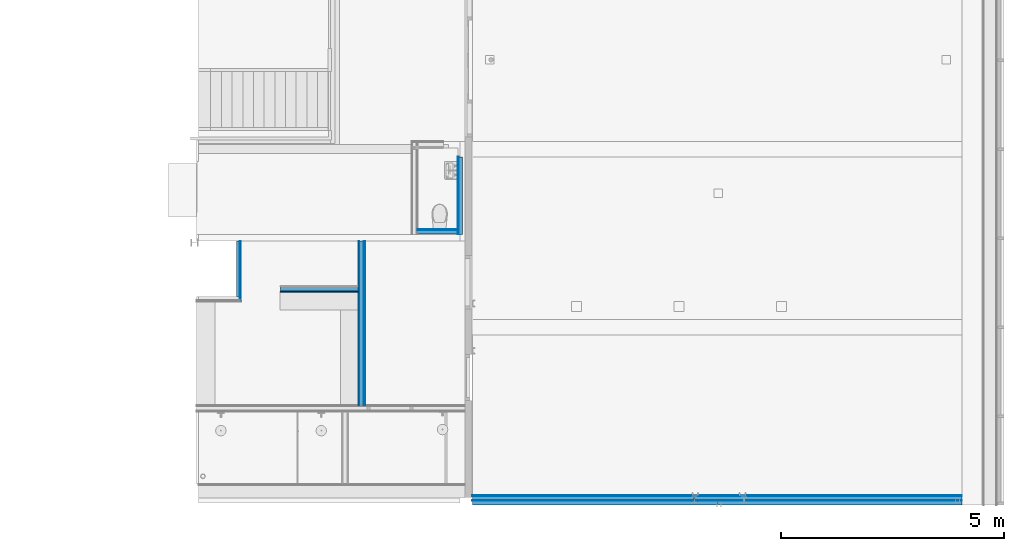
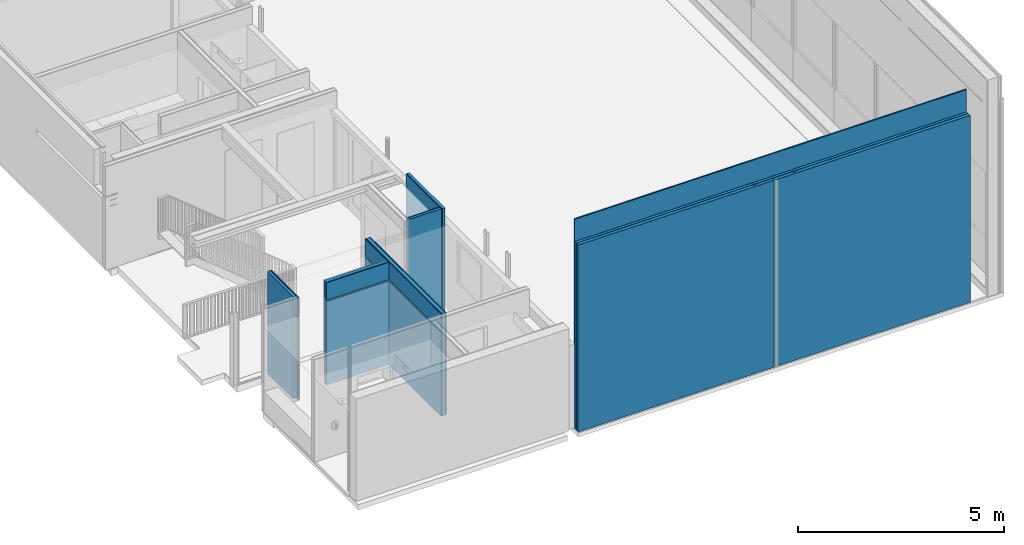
# One storey, part 10 of 35: 23 building element parts, 6 elements without a shape of their own.
"""IFC2X3 building model written with IfcOpenShell, lengths in millimetres."""

import ifcopenshell
import ifcopenshell.guid

model = None  # the IFC model being written
_history = None  # IfcOwnerHistory: only IFC2X3 demands one
_inside = {}  # id of a spatial element -> (the spatial element, [elements in it])
_under = {}  # id of a project, library or spatial element -> (it, [spatial elements below it])
_declared = {}  # id of a project -> (the project, [libraries it declares])
_typed = {}  # id of a type object -> (the type object, [elements of that type])
_made_of = {}  # id of a material, layer set ... -> (it, [elements and type objects made of it])


def new_model(schema):
    """Start an empty IFC model of exactly this schema.

    Asked for "IFC4X3", IfcOpenShell would pick the latest addendum, in which some entities
    have other attributes; the version numbers below select the first issue.
    IFC2X3 requires an IfcOwnerHistory on every rooted entity: one is made here for all.
    """
    global model, _history
    if schema == "IFC4X3":
        model = ifcopenshell.file(schema_version=(4, 3, 0, 0))
    else:
        model = ifcopenshell.file(schema=schema)
    _inside.clear()
    _under.clear()
    _declared.clear()
    _typed.clear()
    _made_of.clear()
    _history = None
    if model.schema == "IFC2X3":
        org = make("IfcOrganization", Name="unknown")
        user = make(
            "IfcPersonAndOrganization",
            ThePerson=make("IfcPerson", FamilyName="unknown"),
            TheOrganization=org,
        )
        app = make(
            "IfcApplication",
            ApplicationDeveloper=org,
            Version="unknown",
            ApplicationFullName="unknown",
            ApplicationIdentifier="unknown",
        )
        _history = make(
            "IfcOwnerHistory",
            OwningUser=user,
            OwningApplication=app,
            ChangeAction="ADDED",
            CreationDate=0,
        )
    return model


def make(cls, **values):
    """One entity of the class cls with the attributes given. An attribute that is None is left unset."""
    return model.create_entity(
        cls, **{name: value for name, value in values.items() if value is not None}
    )


def entity(cls, *values):
    """Any entity or typed value of the class cls, its attributes in the order of the schema. None: left unset."""
    e = model.create_entity(cls)
    for i, value in enumerate(values):
        if value is not None:
            e[i] = value
    return e


def rooted(cls, **values):
    """An entity with a GlobalId (a new one), such as an element, a storey or a relation."""
    return make(cls, GlobalId=ifcopenshell.guid.new(), OwnerHistory=_history, **values)


def si_unit(unit_type, name, prefix=None):
    """IfcSIUnit, for example si_unit("LENGTHUNIT", "METRE", prefix="MILLI")."""
    return make("IfcSIUnit", UnitType=unit_type, Prefix=prefix, Name=name)


def converted_unit(unit_type, name, factor, base, dimensions=None, offset=None):
    """IfcConversionBasedUnit, such as the inch: factor (a typed value) times the base unit."""
    return make(
        "IfcConversionBasedUnit"
        if offset is None
        else "IfcConversionBasedUnitWithOffset",
        ConversionOffset=offset,
        Dimensions=None
        if dimensions is None
        else entity("IfcDimensionalExponents", *dimensions),
        UnitType=unit_type,
        Name=name,
        ConversionFactor=make(
            "IfcMeasureWithUnit", ValueComponent=factor, UnitComponent=base
        ),
    )


def derived_unit(unit_type, elements):
    """IfcDerivedUnit: a product of units, each with its exponent."""
    return make(
        "IfcDerivedUnit",
        Elements=[
            make("IfcDerivedUnitElement", Unit=unit, Exponent=power)
            for unit, power in elements
        ],
        UnitType=unit_type,
    )


def money_unit(currency):
    """IfcMonetaryUnit."""
    return make("IfcMonetaryUnit", Currency=currency)


def assignment(units):
    """IfcUnitAssignment: the units of a project."""
    return None if units is None else make("IfcUnitAssignment", Units=units)


def point(xyz):
    """IfcCartesianPoint."""
    return None if xyz is None else make("IfcCartesianPoint", Coordinates=xyz)


def direction(xyz):
    """IfcDirection."""
    return None if xyz is None else make("IfcDirection", DirectionRatios=xyz)


def frame(location, z_axis=None, x_axis=None):
    """IfcAxis2Placement3D, a coordinate frame: its origin and axes. An axis left out is left unset."""
    return make(
        "IfcAxis2Placement3D",
        Location=point(location),
        Axis=direction(z_axis),
        RefDirection=direction(x_axis),
    )


def origin_with_axes():
    """The frame at (0, 0, 0) with the z axis (0, 0, 1) and the x axis (1, 0, 0) written out."""
    return frame((0.0, 0.0, 0.0), z_axis=(0.0, 0.0, 1.0), x_axis=(1.0, 0.0, 0.0))


def place(relative_to, where):
    """IfcLocalPlacement: puts the frame where relative to a parent placement (None: the world)."""
    return make(
        "IfcLocalPlacement", PlacementRelTo=relative_to, RelativePlacement=where
    )


def context(
    kind, dimensions, precision=None, world=None, true_north=None, identifier=None
):
    """IfcGeometricRepresentationContext, for example the 3D "Model" context."""
    return make(
        "IfcGeometricRepresentationContext",
        ContextIdentifier=identifier,
        ContextType=kind,
        CoordinateSpaceDimension=dimensions,
        Precision=precision,
        WorldCoordinateSystem=world,
        TrueNorth=true_north,
    )


def subcontext(parent, identifier, kind, view, scale=None):
    """IfcGeometricRepresentationSubContext, for example "Body" below "Model"."""
    return make(
        "IfcGeometricRepresentationSubContext",
        ContextIdentifier=identifier,
        ContextType=kind,
        ParentContext=parent,
        TargetScale=scale,
        TargetView=view,
    )


def project(units=None, contexts=None):
    """IfcProject with its units and contexts."""
    return rooted(
        "IfcProject",
        Name="project",
        RepresentationContexts=contexts,
        UnitsInContext=assignment(units),
    )


def spatial(cls, under=None, at=None, **own):
    """A site, building, storey or space (cls), placed at a placement, below another one or the project."""
    s = rooted(cls, ObjectPlacement=at, **own)
    if under is not None:
        _under.setdefault(under.id(), (under, []))[1].append(s)
    return s


def faces_of(points, faces, orient=None, outer=None):
    """IfcFace entities. A face is a list of loops; a loop is a list of indices into points, from 0.

    orient and outer hold one flag for each loop. By default every Orientation is true, the
    first loop of a face is its IfcFaceOuterBound and the others are IfcFaceBound.
    """
    made = []
    for i, loops in enumerate(faces):
        bounds = []
        for j, loop in enumerate(loops):
            is_outer = j == 0 if outer is None else outer[i][j]
            bounds.append(
                make(
                    "IfcFaceOuterBound" if is_outer else "IfcFaceBound",
                    Bound=make("IfcPolyLoop", Polygon=[points[k] for k in loop]),
                    Orientation=True if orient is None else orient[i][j],
                )
            )
        made.append(make("IfcFace", Bounds=bounds))
    return made


def faceted_brep(points, faces, orient=None, outer=None, voids=None):
    """IfcFacetedBrep: a solid bounded by flat faces; with voids (closed shells), ...WithVoids."""
    shared = [point(p) for p in points]
    hull = make("IfcClosedShell", CfsFaces=faces_of(shared, faces, orient, outer))
    if voids is None:
        return make("IfcFacetedBrep", Outer=hull)
    return make(
        "IfcFacetedBrepWithVoids",
        Outer=hull,
        Voids=[
            make(cls, CfsFaces=faces_of(shared, fs, o, b)) for cls, fs, o, b in voids
        ],
    )


def shape(context_of_items, identifier, shape_type, items):
    """IfcShapeRepresentation: the items that make up one representation, for example the "Body"."""
    return make(
        "IfcShapeRepresentation",
        ContextOfItems=context_of_items,
        RepresentationIdentifier=identifier,
        RepresentationType=shape_type,
        Items=items,
    )


def material(Name=None, Category=None):
    """IfcMaterial."""
    return make("IfcMaterial", Name=Name, Category=Category)


def made_of(thing, what):
    """Note that an element or type object is made of a material, layer set ...; save() writes the relation."""
    if what is not None:
        _made_of.setdefault(what.id(), (what, []))[1].append(thing)
    return thing


def type_object(cls, material=None, **own):
    """A type object (cls), such as IfcWallType, which elements share."""
    return made_of(rooted(cls, **own), material)


def element(
    cls,
    number,
    at=None,
    inside=None,
    cuts=None,
    type_object=None,
    material=None,
    context=None,
    identifier="Body",
    shape_type=None,
    held_by="IfcProductDefinitionShape",
    body=None,
    shapes=None,
    **own,
):
    """One element of the class cls, such as IfcWall. Its Tag is "e" and its number.

    at: its placement. inside: the storey or other place that contains it. cuts: it is an
    opening in that element (IfcRelVoidsElement). A single representation is given by context,
    identifier, shape_type and body (its items); several are given by shapes. held_by: the class
    of the entity that holds the representations. save() writes the other relations.
    """
    e = rooted(cls, Tag="e%d" % number, ObjectPlacement=at, **own)
    if body is not None:
        shapes = [shape(context, identifier, shape_type, body)]
    if shapes is not None:
        e.Representation = make(held_by, Representations=shapes)
    if inside is not None:
        _inside.setdefault(inside.id(), (inside, []))[1].append(e)
    if cuts is not None:
        rooted(
            "IfcRelVoidsElement", RelatingBuildingElement=cuts, RelatedOpeningElement=e
        )
    if type_object is not None:
        _typed.setdefault(type_object.id(), (type_object, []))[1].append(e)
    return made_of(e, material)


def aggregate(whole, parts):
    """IfcRelAggregates: a whole, such as a stair, and the parts it consists of."""
    return rooted("IfcRelAggregates", RelatingObject=whole, RelatedObjects=parts)


def save(model, path):
    """Write the relations noted so far, then the file.

    IfcRelAggregates (storeys below a building ...), IfcRelContainedInSpatialStructure (elements
    in a storey), IfcRelDefinesByType, IfcRelAssociatesMaterial and IfcRelDeclares: one each for
    every whole, place, type object, material and project.
    """
    for whole, parts in _under.values():
        aggregate(whole, parts)
    for where, things in _inside.values():
        rooted(
            "IfcRelContainedInSpatialStructure",
            RelatedElements=things,
            RelatingStructure=where,
        )
    for kind, things in _typed.values():
        rooted("IfcRelDefinesByType", RelatedObjects=things, RelatingType=kind)
    for what, things in _made_of.values():
        rooted("IfcRelAssociatesMaterial", RelatedObjects=things, RelatingMaterial=what)
    for by, libraries in _declared.values():
        rooted("IfcRelDeclares", RelatingContext=by, RelatedDefinitions=libraries)
    model.write(path)


model = new_model("IFC2X3")

# Units and contexts
model_context = context("Model", 3, precision=0.01, world=origin_with_axes(), true_north=direction((0.0, 1.0)))
body_context = subcontext(model_context, "Body", "Model", "MODEL_VIEW")
ifc_project = project(units=[si_unit("LENGTHUNIT", "METRE", prefix="MILLI"), si_unit("AREAUNIT", "SQUARE_METRE"), si_unit("VOLUMEUNIT", "CUBIC_METRE"), converted_unit("PLANEANGLEUNIT", "DEGREE", entity("IfcPlaneAngleMeasure", 0.0174532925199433), si_unit("PLANEANGLEUNIT", "RADIAN"), dimensions=[0, 0, 0, 0, 0, 0, 0]), money_unit("EUR"), converted_unit("TIMEUNIT", "Year", entity("IfcTimeMeasure", 31557600.0), si_unit("TIMEUNIT", "SECOND"), dimensions=[0, 0, 1, 0, 0, 0, 0]), si_unit("MASSUNIT", "GRAM", prefix="KILO"), si_unit("THERMODYNAMICTEMPERATUREUNIT", "DEGREE_CELSIUS"), si_unit("LUMINOUSINTENSITYUNIT", "LUMEN"), si_unit("ENERGYUNIT", "JOULE", prefix="MEGA"), derived_unit("THERMALCONDUCTANCEUNIT", [(si_unit("POWERUNIT", "WATT"), 1), (si_unit("LENGTHUNIT", "METRE"), -1), (si_unit("THERMODYNAMICTEMPERATUREUNIT", "KELVIN"), -1)]), derived_unit("SPECIFICHEATCAPACITYUNIT", [(si_unit("ENERGYUNIT", "JOULE"), 1), (si_unit("MASSUNIT", "GRAM", prefix="KILO"), -1), (si_unit("THERMODYNAMICTEMPERATUREUNIT", "KELVIN"), -1)]), derived_unit("MASSDENSITYUNIT", [(si_unit("MASSUNIT", "GRAM", prefix="KILO"), 1), (si_unit("VOLUMEUNIT", "CUBIC_METRE"), -1)])], contexts=[model_context])

# Site, building, storey
site_placement = place(None, origin_with_axes())
site = spatial("IfcSite", under=ifc_project, at=site_placement, Name="<site naam>", CompositionType="ELEMENT")
building_placement = place(site_placement, origin_with_axes())
building = spatial("IfcBuilding", under=site, at=building_placement, Name="<Naam gebouw>", CompositionType="ELEMENT")
storey_placement = place(building_placement, frame((0.0, 0.0, 6345.0), z_axis=(0.0, 0.0, 1.0), x_axis=(1.0, 0.0, 0.0)))
storey = spatial("IfcBuildingStorey", under=building, at=storey_placement, Name="02 2e tussenverdieping", CompositionType="ELEMENT", Elevation=6345.0)

# Wall, building element parts
wall_type_1 = type_object("IfcWallType", Name="MS-01 GF 150 ECO DGS/2.100.2.A 150", PredefinedType="NOTDEFINED")
wall_1_placement = place(storey_placement, frame((55765.78284470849, 6085.000043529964, 0.0), z_axis=(0.0, 0.0, 1.0), x_axis=(0.0, -1.0, 0.0)))
wall_1 = element("IfcWall", 1, at=wall_1_placement, inside=storey, type_object=wall_type_1, Name="22_Binnenwand_MS-01")
ifc_material_1 = material(Name="gipsplaat")
building_element_part_1_placement = place(wall_1_placement, origin_with_axes())
building_element_part_1 = element("IfcBuildingElementPart", 2, at=building_element_part_1_placement, material=ifc_material_1, Name="gipsplaat", context=body_context, shape_type="Brep", body=[
    faceted_brep([(150.0000435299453, 125.0000009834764, 3038.000000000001), (150.0000435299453, 137.5000000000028, 3038.000000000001), (149.9999662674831, 137.5000000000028, 3.000000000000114), (149.9999662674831, 125.0000000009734, 3.000000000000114), (3835.00004352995, 137.5000000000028, 3038.000000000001), (3835.00004352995, 125.0000009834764, 3038.000000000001), (3835.00004352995, 137.5000000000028, 3.000000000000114), (3835.00004352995, 125.0000000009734, 3.000000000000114)], [[[0, 1, 2, 3]], [[4, 1, 0, 5]], [[1, 4, 6, 2]], [[7, 3, 2, 6]], [[5, 0, 3, 7]], [[4, 5, 7, 6]]]),
])
building_element_part_2_placement = place(wall_1_placement, origin_with_axes())
building_element_part_2 = element("IfcBuildingElementPart", 3, at=building_element_part_2_placement, material=ifc_material_1, Name="gipsplaat", context=body_context, shape_type="Brep", body=[
    faceted_brep([(150.0000435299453, 12.50000000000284, 3038.000000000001), (150.0000435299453, 25.00000126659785, 3038.000000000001), (149.9999662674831, 25.00000000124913, 3.000000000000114), (149.9999662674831, 12.50000000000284, 3.000000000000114), (3835.00004352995, 25.00000126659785, 3038.000000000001), (3835.00004352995, 12.50000000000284, 3038.000000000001), (3835.00004352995, 25.00000000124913, 3.000000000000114), (3835.00004352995, 12.50000000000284, 3.000000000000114)], [[[0, 1, 2, 3]], [[4, 1, 0, 5]], [[1, 4, 6, 2]], [[7, 3, 2, 6]], [[5, 0, 3, 7]], [[4, 5, 7, 6]]]),
])
ifc_material_2 = material(Name="isolatie_steenwol LSW")
building_element_part_3_placement = place(wall_1_placement, origin_with_axes())
building_element_part_3 = element("IfcBuildingElementPart", 4, at=building_element_part_3_placement, material=ifc_material_2, Name="isolatie_steenwol LSW", context=body_context, shape_type="Brep", body=[
    faceted_brep([(150.0000435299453, 25.00000126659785, 3038.000000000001), (150.0000435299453, 125.0000009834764, 3038.000000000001), (149.9999662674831, 125.0000000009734, 3.000000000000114), (149.9999662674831, 25.00000000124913, 3.000000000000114), (3835.00004352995, 125.0000009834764, 3038.000000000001), (3835.00004352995, 25.00000126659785, 3038.000000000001), (3835.00004352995, 125.0000000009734, 3.000000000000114), (3835.00004352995, 25.00000000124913, 3.000000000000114)], [[[0, 1, 2, 3]], [[4, 1, 0, 5]], [[1, 4, 6, 2]], [[7, 3, 2, 6]], [[5, 0, 3, 7]], [[4, 5, 7, 6]]]),
])
building_element_part_4_placement = place(wall_1_placement, origin_with_axes())
building_element_part_4 = element("IfcBuildingElementPart", 5, at=building_element_part_4_placement, material=ifc_material_1, Name="gipsplaat", context=body_context, shape_type="Brep", body=[
    faceted_brep([(150.0000435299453, 0.0, 3038.000000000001), (150.0000435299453, 12.50000000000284, 3038.000000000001), (150.0000135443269, 12.50000000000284, 2520.0), (150.0000135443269, 0.0, 2520.0), (3835.00004352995, 12.50000000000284, 3038.000000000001), (3835.00004352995, 0.0, 3038.000000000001), (3835.00004352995, 12.50000000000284, 2520.0), (3835.00004352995, 0.0, 2520.0)], [[[0, 1, 2, 3]], [[4, 1, 0, 5]], [[1, 4, 6, 2]], [[7, 3, 2, 6]], [[5, 0, 3, 7]], [[4, 5, 7, 6]]]),
    faceted_brep([(150.0000135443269, 0.0, 2480.000000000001), (150.0000135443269, 12.50000000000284, 2480.000000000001), (149.9999662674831, 12.50000000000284, 3.000000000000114), (149.9999662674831, 0.0, 3.000000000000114), (3835.00004352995, 12.50000000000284, 2480.000000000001), (3835.00004352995, 0.0, 2480.000000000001), (3835.00004352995, 12.50000000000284, 3.000000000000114), (3835.00004352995, 0.0, 3.000000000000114)], [[[0, 1, 2, 3]], [[4, 1, 0, 5]], [[1, 4, 6, 2]], [[3, 2, 6, 7]], [[5, 0, 3, 7]], [[4, 5, 7, 6]]]),
])
building_element_part_5_placement = place(wall_1_placement, origin_with_axes())
building_element_part_5 = element("IfcBuildingElementPart", 6, at=building_element_part_5_placement, material=ifc_material_1, Name="gipsplaat", context=body_context, shape_type="Brep", body=[
    faceted_brep([(150.0000435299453, 137.5000000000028, 3038.000000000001), (150.0000435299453, 149.9999995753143, 3038.000000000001), (149.9999662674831, 149.9999999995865, 3.000000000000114), (149.9999662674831, 137.5000000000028, 3.000000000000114), (3835.00004352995, 149.9999995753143, 3038.000000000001), (3835.00004352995, 137.5000000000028, 3038.000000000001), (3835.00004352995, 149.9999999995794, 3.000000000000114), (3835.00004352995, 137.5000000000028, 3.000000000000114)], [[[0, 1, 2, 3]], [[4, 1, 0, 5]], [[1, 4, 6, 2]], [[7, 3, 2, 6]], [[5, 0, 3, 7]], [[4, 5, 7, 6]]]),
])
aggregate(wall_1, [building_element_part_1, building_element_part_2, building_element_part_3, building_element_part_4, building_element_part_5])

wall_2_placement = place(storey_placement, frame((54015.78284470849, 4935.000000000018, 0.0), z_axis=(0.0, 0.0, 1.0), x_axis=(1.0, 0.0, 0.0)))
wall_2 = element("IfcWall", 7, at=wall_2_placement, inside=storey, type_object=wall_type_1, Name="22_Binnenwand_MS-01")
building_element_part_6_placement = place(wall_2_placement, origin_with_axes())
building_element_part_6 = element("IfcBuildingElementPart", 8, at=building_element_part_6_placement, material=ifc_material_2, Name="isolatie_steenwol LSW", context=body_context, shape_type="Brep", body=[
    faceted_brep([(0.0, -24.99999999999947, 2480.000000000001), (1750.0, -24.99999999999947, 2480.000000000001), (1750.0, -24.99999999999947, 3.000000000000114), (0.0, -25.00000000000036, 3.000000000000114), (1750.0, -125.0, 2480.000000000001), (0.0, -125.0, 2480.000000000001), (1750.0, -125.0, 3.000000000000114), (0.0, -125.0, 3.000000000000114)], [[[0, 1, 2, 3]], [[4, 1, 0, 5]], [[1, 4, 6, 2]], [[3, 2, 6, 7]], [[5, 0, 3, 7]], [[4, 5, 7, 6]]]),
    faceted_brep([(1750.0, -125.0, 2520.0), (1750.0, -24.99999999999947, 2520.0), (1750.0, -24.99999999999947, 3038.000000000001), (1750.0, -125.0, 3038.000000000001), (0.0, -24.99999999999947, 2520.0), (0.0, -125.0, 2520.0), (0.0, -24.99999999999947, 3038.000000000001), (0.0, -125.0, 3038.000000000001)], [[[0, 1, 2, 3]], [[4, 1, 0, 5]], [[1, 4, 6, 2]], [[3, 2, 6, 7]], [[5, 0, 3, 7]], [[4, 5, 7, 6]]]),
])
building_element_part_7_placement = place(wall_2_placement, origin_with_axes())
building_element_part_7 = element("IfcBuildingElementPart", 9, at=building_element_part_7_placement, material=ifc_material_1, Name="gipsplaat", context=body_context, shape_type="Brep", body=[
    faceted_brep([(0.0, -125.0, 2480.000000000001), (1750.0, -125.0, 2480.000000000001), (1750.0, -125.0, 3.000000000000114), (0.0, -125.0, 3.000000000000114), (1750.0, -137.4999999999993, 2480.000000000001), (0.0, -137.5000000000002, 2480.000000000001), (1750.0, -137.5000000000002, 3.000000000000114), (0.0, -137.5000000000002, 3.000000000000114)], [[[0, 1, 2, 3]], [[4, 1, 0, 5]], [[1, 4, 6, 2]], [[3, 2, 6, 7]], [[5, 0, 3, 7]], [[4, 5, 7, 6]]]),
    faceted_brep([(1750.0, -137.4999999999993, 2520.0), (1750.0, -125.0, 2520.0), (1750.0, -125.0, 3038.000000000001), (1750.0, -137.4999999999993, 3038.000000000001), (0.0, -125.0, 2520.0), (0.0, -137.5000000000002, 2520.0), (0.0, -125.0, 3038.000000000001), (0.0, -137.5000000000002, 3038.000000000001)], [[[0, 1, 2, 3]], [[4, 1, 0, 5]], [[1, 4, 6, 2]], [[3, 2, 6, 7]], [[5, 0, 3, 7]], [[4, 5, 7, 6]]]),
])
building_element_part_8_placement = place(wall_2_placement, origin_with_axes())
building_element_part_8 = element("IfcBuildingElementPart", 10, at=building_element_part_8_placement, material=ifc_material_1, Name="gipsplaat", context=body_context, shape_type="Brep", body=[
    faceted_brep([(0.0, -137.5000000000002, 2480.000000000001), (1750.0, -137.4999999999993, 2480.000000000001), (1750.0, -137.5000000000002, 3.000000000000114), (0.0, -137.5000000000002, 3.000000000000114), (1750.0, -149.9999999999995, 2480.000000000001), (0.0, -149.9999999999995, 2480.000000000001), (1750.0, -150.0000000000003, 3.000000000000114), (0.0, -150.0000000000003, 3.000000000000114)], [[[0, 1, 2, 3]], [[4, 1, 0, 5]], [[1, 4, 6, 2]], [[3, 2, 6, 7]], [[5, 0, 3, 7]], [[4, 5, 7, 6]]]),
    faceted_brep([(1750.0, -149.9999999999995, 2520.0), (1750.0, -137.4999999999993, 2520.0), (1750.0, -137.4999999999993, 3038.000000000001), (1750.0, -149.9999999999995, 3038.000000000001), (0.0, -137.5000000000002, 2520.0), (0.0, -149.9999999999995, 2520.0), (0.0, -137.5000000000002, 3038.000000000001), (0.0, -149.9999999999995, 3038.000000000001)], [[[0, 1, 2, 3]], [[4, 1, 0, 5]], [[1, 4, 6, 2]], [[3, 2, 6, 7]], [[5, 0, 3, 7]], [[4, 5, 7, 6]]]),
])
aggregate(wall_2, [building_element_part_6, building_element_part_7, building_element_part_8])

wall_type_2 = type_object("IfcWallType", Name="MS-04 GF 138 V/100.3.A 113", PredefinedType="NOTDEFINED")
wall_3_placement = place(storey_placement, frame((53025.00000000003, 4685.000000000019, 0.0), z_axis=(0.0, 0.0, 1.0), x_axis=(0.0, 1.0, 0.0)))
wall_3 = element("IfcWall", 11, at=wall_3_placement, inside=storey, type_object=wall_type_2, Name="22_Binnenwand_MS-04")
building_element_part_9_placement = place(wall_3_placement, origin_with_axes())
building_element_part_9 = element("IfcBuildingElementPart", 12, at=building_element_part_9_placement, material=ifc_material_1, Name="gipsplaat", context=body_context, shape_type="Brep", body=[
    faceted_brep([(1250.0, -87.49999999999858, 3038.000000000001), (1250.0, -100.0000000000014, 3038.000000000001), (1249.999999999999, -100.0000000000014, 0.0), (1249.999999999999, -87.49999999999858, 0.0), (-87.50000000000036, -100.0000000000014, 3038.000000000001), (-87.50000000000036, -87.49999999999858, 3038.000000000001), (-87.50000000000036, -100.0000000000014, 0.0), (-87.50000000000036, -87.49999999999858, 0.0)], [[[0, 1, 2, 3]], [[4, 1, 0, 5]], [[1, 4, 6, 2]], [[6, 7, 3, 2]], [[5, 0, 3, 7]], [[4, 5, 7, 6]]]),
])
building_element_part_10_placement = place(wall_3_placement, origin_with_axes())
building_element_part_10 = element("IfcBuildingElementPart", 13, at=building_element_part_10_placement, material=ifc_material_1, Name="gipsplaat", context=body_context, shape_type="Brep", body=[
    faceted_brep([(1250.0, -75.00000000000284, 3038.000000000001), (1250.0, -87.49999999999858, 3038.000000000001), (1249.999999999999, -87.49999999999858, 0.0), (1249.999999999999, -75.00000000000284, 0.0), (-75.00000000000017, -87.49999999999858, 3038.000000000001), (-75.00000000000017, -75.00000000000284, 3038.000000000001), (-75.00000000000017, -87.49999999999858, 0.0), (-75.00000000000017, -75.00000000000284, 0.0)], [[[0, 1, 2, 3]], [[4, 1, 0, 5]], [[1, 4, 6, 2]], [[6, 7, 3, 2]], [[5, 0, 3, 7]], [[4, 5, 7, 6]]]),
])
building_element_part_11_placement = place(wall_3_placement, origin_with_axes())
building_element_part_11 = element("IfcBuildingElementPart", 14, at=building_element_part_11_placement, material=ifc_material_1, Name="gipsplaat", context=body_context, shape_type="Brep", body=[
    faceted_brep([(1250.0, -100.0000000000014, 3038.000000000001), (1250.0, -112.4999999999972, 3038.000000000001), (1250.000029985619, -112.4999999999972, 2520.0), (1250.000029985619, -100.0000000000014, 2520.0), (-99.99999999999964, -112.4999999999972, 3038.000000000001), (-99.99999999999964, -100.0000000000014, 3038.000000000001), (-99.99999999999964, -112.4999999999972, 2520.0), (-99.99999999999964, -100.0000000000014, 2520.0)], [[[0, 1, 2, 3]], [[4, 1, 0, 5]], [[1, 4, 6, 2]], [[7, 3, 2, 6]], [[5, 0, 3, 7]], [[4, 5, 7, 6]]]),
    faceted_brep([(1250.000029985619, -100.0000000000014, 2480.000000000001), (1250.000029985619, -112.4999999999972, 2480.000000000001), (1249.999999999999, -112.4999999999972, 0.0), (1249.999999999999, -100.0000000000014, 0.0), (-99.99999999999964, -112.4999999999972, 2480.000000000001), (-99.99999999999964, -100.0000000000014, 2480.000000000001), (-99.99999999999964, -112.4999999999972, 0.0), (-99.99999999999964, -100.0000000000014, 0.0)], [[[0, 1, 2, 3]], [[4, 1, 0, 5]], [[1, 4, 6, 2]], [[7, 3, 2, 6]], [[5, 0, 3, 7]], [[4, 5, 7, 6]]]),
])
building_element_part_12_placement = place(wall_3_placement, origin_with_axes())
building_element_part_12 = element("IfcBuildingElementPart", 15, at=building_element_part_12_placement, material=ifc_material_2, Name="isolatie_steenwol LSW", context=body_context, shape_type="Brep", body=[
    faceted_brep([(1250.0, 0.0, 3038.000000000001), (1250.0, -75.00000000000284, 3038.000000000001), (1249.999999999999, -75.00000000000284, 0.0), (1249.999999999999, 0.0, 0.0), (0.0, -75.00000000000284, 3038.000000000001), (8.849472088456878e-05, -7.931138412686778e-05, 3038.000000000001), (0.0, -75.00000000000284, 0.0), (0.0, 0.0, 0.0)], [[[0, 1, 2, 3]], [[4, 1, 0, 5]], [[1, 4, 6, 2]], [[6, 7, 3, 2]], [[5, 0, 3, 7]], [[4, 5, 7, 6]]]),
])
aggregate(wall_3, [building_element_part_9, building_element_part_10, building_element_part_11, building_element_part_12])

wall_type_3 = type_object("IfcWallType", Name="therm. voorzetwand 215mm 215", PredefinedType="NOTDEFINED")
wall_4_placement = place(storey_placement, frame((58325.00000000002, 10.91067811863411, 0.0), z_axis=(0.0, 0.0, 1.0), x_axis=(1.0, 5.486340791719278e-09, 0.0)))
wall_4 = element("IfcWall", 16, at=wall_4_placement, inside=storey, type_object=wall_type_3, Name="22_Binnenwand_therm.")
building_element_part_13_placement = place(wall_4_placement, origin_with_axes())
building_element_part_13 = element("IfcBuildingElementPart", 17, at=building_element_part_13_placement, material=ifc_material_1, Name="gipsplaat", context=body_context, shape_type="Brep", body=[
    faceted_brep([(1.179557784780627e-06, 214.9999999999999, 6205.000014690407), (11000.00011562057, 214.9999396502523, 6205.000014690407), (11000.00011562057, 214.9999396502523, 5685.029654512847), (42.43408754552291, 214.9999997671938, 5685.029654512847), (42.43408754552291, 214.9999997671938, 5645.029654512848), (11000.00011562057, 214.9999396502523, 5645.029654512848), (11000.00011562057, 214.9999396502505, 0.0), (2099.999788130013, 214.9999884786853, 0.0), (2099.999788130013, 214.9999884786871, 3.000000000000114), (1.179557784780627e-06, 214.9999999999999, 3.000000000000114), (11000.00011555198, 202.4999396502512, 6205.000014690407), (1.11098330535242e-06, 202.5000000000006, 6205.000014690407), (11000.00011555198, 202.4999396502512, 0.0), (11000.00011559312, 209.9999666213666, 5645.029654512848), (11000.00011559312, 209.9999666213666, 5685.029654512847), (42.43408751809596, 210.0000267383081, 5685.029654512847), (42.43408751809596, 210.0000267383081, 5645.029654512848), (1.152130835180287e-06, 209.9999516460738, 0.0), (2099.999788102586, 209.9999401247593, 0.0), (1.11098330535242e-06, 202.5000000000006, 0.0), (2099.999788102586, 209.9999401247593, 3.000000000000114), (1.152130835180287e-06, 209.9999516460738, 3.000000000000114)], [[[0, 1, 2, 3, 4, 5, 6, 7, 8, 9]], [[10, 1, 0, 11]], [[1, 10, 12, 6, 5, 13, 14, 2]], [[15, 3, 2, 14]], [[16, 4, 3, 15]], [[16, 13, 5, 4]], [[17, 18, 7, 6, 12, 19]], [[20, 8, 7, 18]], [[21, 9, 8, 20]], [[11, 0, 9, 21, 17, 19]], [[10, 11, 19, 12]], [[15, 14, 13, 16]], [[20, 18, 17, 21]]]),
])
ifc_material_3 = material(Name="isolatie_steenwol")
building_element_part_14_placement = place(wall_4_placement, origin_with_axes())
building_element_part_14 = element("IfcBuildingElementPart", 18, at=building_element_part_14_placement, material=ifc_material_3, Name="isolatie_steenwol", context=body_context, shape_type="Brep", body=[
    faceted_brep([(9.60127977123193e-07, 174.9999999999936, 6205.000014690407), (11000.00011540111, 174.9999396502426, 6205.000014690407), (11000.0001154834, 189.9999396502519, 6205.000014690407), (1.042401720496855e-06, 190.0000000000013, 6205.000014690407), (11000.00011540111, 174.9999396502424, 5545.000000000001), (9.60127977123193e-07, 174.9999999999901, 5545.000000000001), (4925.000000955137, 174.9999729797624, 5545.000000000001), (5045.000000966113, 174.9999723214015, 5545.000000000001), (6045.000000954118, 174.9999668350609, 5545.000000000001), (6165.000000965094, 174.9999661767, 5545.000000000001), (11000.00011498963, 99.99993965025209, 5545.000000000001), (11000.00011498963, 99.99993965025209, 0.0), (11000.0001154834, 189.9999396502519, 0.0), (1.042401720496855e-06, 189.9999999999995, 0.0), (5.486313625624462e-07, 99.99999999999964, 0.0), (5.48652678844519e-07, 99.99999999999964, 5545.000000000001), (4981.750000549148, 99.99997266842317, 5545.000000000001), (4981.75000093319, 170.0000542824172, 5545.000000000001), (4925.000000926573, 170.0000545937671, 5545.000000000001), (4925.000000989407, 181.0000547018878, 5545.000000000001), (5045.000000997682, 181.0000540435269, 5545.000000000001), (6101.750000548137, 99.99996652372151, 5545.000000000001), (6101.750000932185, 170.0000481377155, 5545.000000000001), (6045.000000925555, 170.0000484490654, 5545.000000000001), (5045.000000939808, 170.0000539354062, 5545.000000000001), (4988.250000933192, 170.000054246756, 5545.000000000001), (4988.250000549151, 99.99997263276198, 5545.000000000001), (6045.000000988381, 181.0000485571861, 5545.000000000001), (6165.000000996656, 181.0000478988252, 5545.000000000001), (6165.000000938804, 170.0000477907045, 5545.000000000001), (6108.250000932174, 170.0000481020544, 5545.000000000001), (6108.250000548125, 99.99996648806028, 5545.000000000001), (6108.250000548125, 99.9999664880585, 0.0), (6101.750000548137, 99.99996652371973, 0.0), (4988.250000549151, 99.9999726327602, 0.0), (4988.250000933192, 170.000054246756, 0.0), (5045.000000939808, 170.0000539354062, 0.0), (5045.000000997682, 181.0000540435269, 0.0), (4925.000000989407, 181.0000547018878, 0.0), (4925.000000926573, 170.0000545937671, 0.0), (4981.75000093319, 170.0000542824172, 0.0), (4981.750000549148, 99.99997266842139, 0.0), (6108.250000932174, 170.0000481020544, 0.0), (6165.000000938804, 170.0000477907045, 0.0), (6165.000000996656, 181.0000478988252, 0.0), (6045.000000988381, 181.0000485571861, 0.0), (6045.000000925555, 170.0000484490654, 0.0), (6101.750000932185, 170.0000481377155, 0.0), (5045.000000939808, 170.0000539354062, 3326.998512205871), (5045.000000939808, 170.0000539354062, 3506.998526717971), (6101.750000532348, 99.99964257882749, 3506.998526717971), (6101.750000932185, 170.0000481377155, 3506.998526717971), (6045.000000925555, 170.0000484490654, 3506.998526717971), (6045.000000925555, 170.0000484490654, 3326.998512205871), (4988.250000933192, 170.000054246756, 3506.998526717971), (4988.250000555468, 99.99964868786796, 3506.998526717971), (6101.750000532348, 99.99964257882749, 3326.998512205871), (4988.250000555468, 99.99964868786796, 3326.998512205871), (4988.250000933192, 170.000054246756, 3326.998512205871), (6101.750000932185, 170.0000481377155, 3326.998512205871)], [[[0, 1, 2, 3]], [[4, 1, 0, 5, 6, 7, 8, 9]], [[4, 10, 11, 12, 2, 1]], [[13, 3, 2, 12]], [[5, 0, 3, 13, 14, 15]], [[16, 17, 18, 6, 5, 15]], [[7, 6, 19, 20]], [[21, 22, 23, 8, 7, 24, 25, 26]], [[9, 8, 27, 28]], [[10, 4, 9, 29, 30, 31]], [[10, 31, 32, 11]], [[33, 34, 35, 36, 37, 38, 39, 40, 41, 14, 13, 12, 11, 32, 42, 43, 44, 45, 46, 47]], [[16, 15, 14, 41]], [[17, 16, 41, 40]], [[18, 17, 40, 39]], [[6, 18, 39, 38, 19]], [[20, 19, 38, 37]], [[24, 7, 20, 37, 36, 48, 49]], [[22, 21, 50, 51]], [[23, 22, 51, 52]], [[8, 23, 52, 53, 46, 45, 27]], [[25, 24, 49, 54]], [[26, 25, 54, 55]], [[21, 26, 55, 50]], [[28, 27, 45, 44]], [[29, 9, 28, 44, 43]], [[30, 29, 43, 42]], [[31, 30, 42, 32]], [[33, 56, 57, 34]], [[35, 34, 57, 58]], [[36, 35, 58, 48]], [[47, 46, 53, 59]], [[33, 47, 59, 56]], [[53, 52, 49, 48]], [[50, 55, 54, 49, 52, 51]], [[53, 48, 58, 57, 56, 59]]]),
    faceted_brep([(4988.250000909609, 162.0000542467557, 3337.998512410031), (4988.250000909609, 162.0000542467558, 3495.998526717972), (6101.750000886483, 162.0000481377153, 3495.998526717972), (6101.750000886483, 162.0000481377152, 3337.998512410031), (4988.250000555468, 99.999729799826, 3495.998526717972), (4988.250000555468, 99.99972979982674, 3337.998512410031), (6101.750000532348, 99.99972369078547, 3495.998526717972), (6101.750000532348, 99.9997236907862, 3337.998512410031)], [[[0, 1, 2, 3]], [[4, 1, 0, 5]], [[1, 4, 6, 2]], [[3, 2, 6, 7]], [[5, 0, 3, 7]], [[4, 5, 7, 6]]]),
])
building_element_part_15_placement = place(wall_4_placement, origin_with_axes())
building_element_part_15 = element("IfcBuildingElementPart", 19, at=building_element_part_15_placement, material=ifc_material_1, Name="gipsplaat", context=body_context, shape_type="Brep", body=[
    faceted_brep([(1.11098330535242e-06, 202.5000000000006, 6205.000014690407), (11000.00011555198, 202.4999396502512, 6205.000014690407), (11000.00011555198, 202.4999396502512, 0.0), (1.11098330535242e-06, 202.5000000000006, 0.0), (11000.0001154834, 189.9999396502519, 6205.000014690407), (1.042401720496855e-06, 190.0000000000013, 6205.000014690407), (11000.0001154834, 189.9999396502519, 0.0), (1.042401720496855e-06, 189.9999999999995, 0.0)], [[[0, 1, 2, 3]], [[4, 1, 0, 5]], [[1, 4, 6, 2]], [[3, 2, 6, 7]], [[5, 0, 3, 7]], [[4, 5, 7, 6]]]),
])
ifc_material_4 = material(Name="metal_stud")
building_element_part_16_placement = place(wall_4_placement, origin_with_axes())
building_element_part_16 = element("IfcBuildingElementPart", 20, at=building_element_part_16_placement, material=ifc_material_4, Name="metal_stud", context=body_context, shape_type="Brep", body=[
    faceted_brep([(5.48652678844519e-07, 99.99999999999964, 5545.000000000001), (4981.750000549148, 99.99997266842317, 5545.000000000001), (4981.750000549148, 99.99997266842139, 0.0), (5.486313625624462e-07, 99.99999999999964, 0.0), (4981.750000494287, 89.9999726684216, 5545.000000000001), (4.937916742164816e-07, 89.99999999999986, 5545.000000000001), (4981.750000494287, 89.9999726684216, 0.0), (4.937703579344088e-07, 89.99999999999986, 0.0)], [[[0, 1, 2, 3]], [[4, 1, 0, 5]], [[1, 4, 6, 2]], [[7, 3, 2, 6]], [[5, 0, 3, 7]], [[4, 5, 7, 6]]]),
    faceted_brep([(4988.250000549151, 99.99997263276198, 5545.000000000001), (6101.750000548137, 99.99996652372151, 5545.000000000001), (6101.750000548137, 99.99996652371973, 0.0), (4988.250000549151, 99.9999726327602, 0.0), (6101.750000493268, 89.99996652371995, 5545.000000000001), (4988.250000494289, 89.99997263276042, 5545.000000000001), (6101.750000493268, 89.99996652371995, 0.0), (4988.250000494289, 89.99997263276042, 0.0)], [[[0, 1, 2, 3]], [[4, 1, 0, 5]], [[1, 4, 6, 2]], [[2, 6, 7, 3]], [[5, 0, 3, 7]], [[4, 5, 7, 6]]]),
    faceted_brep([(6108.250000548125, 99.99996648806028, 5545.000000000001), (11000.00011498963, 99.99993965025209, 5545.000000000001), (11000.00011498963, 99.99993965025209, 0.0), (6108.250000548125, 99.9999664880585, 0.0), (11000.00011493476, 89.9999396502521, 5545.000000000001), (6108.250000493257, 89.99996648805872, 5545.000000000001), (11000.00011493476, 89.99993965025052, 0.0), (6108.250000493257, 89.99996648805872, 0.0)], [[[0, 1, 2, 3]], [[4, 1, 0, 5]], [[1, 4, 6, 2]], [[2, 6, 7, 3]], [[5, 0, 3, 7]], [[4, 5, 7, 6]]]),
])
building_element_part_17_placement = place(wall_4_placement, origin_with_axes())
building_element_part_17 = element("IfcBuildingElementPart", 21, at=building_element_part_17_placement, material=ifc_material_3, Name="isolatie_steenwol", context=body_context, shape_type="Brep", body=[
    faceted_brep([(6108.250000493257, 89.99996648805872, 5545.000000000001), (11000.00011493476, 89.9999396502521, 5545.000000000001), (11000.00011493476, 89.99993965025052, 0.0), (6108.250000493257, 89.99996648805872, 0.0), (11000.00011444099, -6.034974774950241e-05, 5545.000000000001), (6108.250000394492, 71.9969916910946, 5545.000000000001), (6165.000000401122, 71.99699137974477, 5545.000000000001), (6165.000000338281, 60.99699127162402, 5545.000000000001), (6045.000000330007, 60.99699192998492, 5545.000000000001), (6045.000000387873, 71.99699203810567, 5545.000000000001), (6101.750000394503, 71.99699172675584, 5545.000000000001), (6101.750000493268, 89.99996652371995, 5545.000000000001), (4988.250000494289, 89.99997263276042, 5545.000000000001), (4988.250000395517, 71.99699783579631, 5545.000000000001), (5045.000000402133, 71.99699752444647, 5545.000000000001), (5045.0000003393, 60.99699741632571, 5545.000000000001), (4925.000000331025, 60.99699807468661, 5545.000000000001), (4925.000000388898, 71.99699818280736, 5545.000000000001), (4981.750000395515, 71.9969978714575, 5545.000000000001), (4981.750000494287, 89.9999726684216, 5545.000000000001), (4.937916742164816e-07, 89.99999999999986, 5545.000000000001), (0.0, 0.0, 5545.000000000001), (5496.999999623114, -3.015841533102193e-05, 5545.000000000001), (5496.999999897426, 49.99996994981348, 5545.000000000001), (5505.000002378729, 49.999969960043, 5545.000000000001), (5505.00000211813, 2.49996979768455, 5545.000000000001), (5584.999997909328, 2.499969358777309, 5545.000000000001), (5584.999998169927, 49.99996952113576, 5545.000000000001), (5593.00000065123, 49.99996942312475, 5545.000000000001), (5593.000000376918, -3.068510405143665e-05, 5545.000000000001), (11000.00011444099, -6.034974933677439e-05, 0.0), (5505.00000211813, 2.49996979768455, 0.0), (5505.000002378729, 49.999969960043, 0.0), (5496.999999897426, 49.99996994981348, 0.0), (5496.999999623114, -3.015841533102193e-05, 0.0), (0.0, 0.0, 0.0), (4.937703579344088e-07, 89.99999999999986, 0.0), (4981.750000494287, 89.9999726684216, 0.0), (4981.750000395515, 71.9969978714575, 0.0), (4925.000000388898, 71.99699818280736, 0.0), (4925.000000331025, 60.99699807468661, 0.0), (5045.0000003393, 60.99699741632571, 0.0), (5045.000000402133, 71.99699752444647, 0.0), (4988.250000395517, 71.99699783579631, 0.0), (4988.250000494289, 89.99997263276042, 0.0), (6101.750000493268, 89.99996652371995, 0.0), (6101.750000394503, 71.99699172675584, 0.0), (6045.000000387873, 71.99699203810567, 0.0), (6045.000000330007, 60.99699192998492, 0.0), (6165.000000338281, 60.99699127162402, 0.0), (6165.000000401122, 71.99699137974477, 0.0), (6108.250000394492, 71.9969916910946, 0.0), (5593.000000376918, -3.068510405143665e-05, 0.0), (5593.00000065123, 49.99996942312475, 0.0), (5584.999998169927, 49.99996952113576, 0.0), (5584.999997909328, 2.499969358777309, 0.0)], [[[0, 1, 2, 3]], [[4, 1, 0, 5, 6, 7, 8, 9, 10, 11, 12, 13, 14, 15, 16, 17, 18, 19, 20, 21, 22, 23, 24, 25, 26, 27, 28, 29]], [[1, 4, 30, 2]], [[31, 32, 33, 34, 35, 36, 37, 38, 39, 40, 41, 42, 43, 44, 45, 46, 47, 48, 49, 50, 51, 3, 2, 30, 52, 53, 54, 55]], [[5, 0, 3, 51]], [[6, 5, 51, 50]], [[7, 6, 50, 49]], [[8, 7, 49, 48]], [[9, 8, 48, 47]], [[10, 9, 47, 46]], [[11, 10, 46, 45]], [[12, 11, 45, 44]], [[13, 12, 44, 43]], [[14, 13, 43, 42]], [[15, 14, 42, 41]], [[16, 15, 41, 40]], [[17, 16, 40, 39]], [[18, 17, 39, 38]], [[19, 18, 38, 37]], [[20, 19, 37, 36]], [[21, 20, 36, 35]], [[22, 21, 35, 34]], [[23, 22, 34, 33]], [[24, 23, 33, 32]], [[25, 24, 32, 31]], [[26, 25, 31, 55]], [[27, 26, 55, 54]], [[28, 27, 54, 53]], [[29, 28, 53, 52]], [[4, 29, 52, 30]]]),
])
aggregate(wall_4, [building_element_part_13, building_element_part_14, building_element_part_15, building_element_part_16, building_element_part_17])

wall_type_4 = type_object("IfcWallType", Name="MS-03 GF 100 HTT DGS V/100.2 100", PredefinedType="NOTDEFINED")
wall_5_placement = place(storey_placement, frame((58000.00000000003, 7825.000000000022, 0.0), z_axis=(0.0, 0.0, 1.0), x_axis=(0.0, -1.0, 0.0)))
wall_5 = element("IfcWall", 22, at=wall_5_placement, inside=storey, type_object=wall_type_4, Name="22_Binnenwand_MS-03")
building_element_part_18_placement = place(wall_5_placement, origin_with_axes())
building_element_part_18 = element("IfcBuildingElementPart", 23, at=building_element_part_18_placement, material=ifc_material_2, Name="isolatie_steenwol LSW", context=body_context, shape_type="Brep", body=[
    faceted_brep([(1739.999866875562, 24.99999999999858, 0.0), (0.0, 24.99999999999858, 0.0), (0.0, 100.0000000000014, 0.0), (1739.999865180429, 100.0000000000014, 0.0), (1739.999866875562, 24.99999999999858, 3038.000000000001), (0.0, 24.99999999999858, 3038.000000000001), (0.0, 100.0000000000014, 3038.000000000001), (1739.999865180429, 100.0000000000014, 3038.000000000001)], [[[0, 1, 2, 3]], [[4, 5, 1, 0]], [[2, 1, 5, 6]], [[3, 2, 6, 7]], [[3, 7, 4, 0]], [[7, 6, 5, 4]]]),
])
building_element_part_19_placement = place(wall_5_placement, origin_with_axes())
building_element_part_19 = element("IfcBuildingElementPart", 24, at=building_element_part_19_placement, material=ifc_material_1, Name="gipsplaat", context=body_context, shape_type="Brep", body=[
    faceted_brep([(1739.999867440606, 0.0, 0.0), (0.0, 0.0, 0.0), (0.0, 12.50000000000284, 0.0), (1739.999867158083, 12.50000000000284, 0.0), (1739.999867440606, 0.0, 3038.000000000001), (0.0, 0.0, 3038.000000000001), (0.0, 12.50000000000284, 3038.000000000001), (1739.999867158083, 12.50000000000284, 3038.000000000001)], [[[0, 1, 2, 3]], [[4, 5, 1, 0]], [[2, 1, 5, 6]], [[3, 2, 6, 7]], [[3, 7, 4, 0]], [[7, 6, 5, 4]]]),
])
building_element_part_20_placement = place(wall_5_placement, origin_with_axes())
building_element_part_20 = element("IfcBuildingElementPart", 25, at=building_element_part_20_placement, material=ifc_material_1, Name="gipsplaat", context=body_context, shape_type="Brep", body=[
    faceted_brep([(1739.999867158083, 12.50000000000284, 0.0), (0.0, 12.50000000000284, 0.0), (0.0, 24.99999999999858, 0.0), (1739.999866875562, 24.99999999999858, 0.0), (1739.999867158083, 12.50000000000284, 3038.000000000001), (0.0, 12.50000000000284, 3038.000000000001), (0.0, 24.99999999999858, 3038.000000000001), (1739.999866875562, 24.99999999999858, 3038.000000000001)], [[[0, 1, 2, 3]], [[4, 5, 1, 0]], [[2, 1, 5, 6]], [[3, 2, 6, 7]], [[3, 7, 4, 0]], [[7, 6, 5, 4]]]),
])
aggregate(wall_5, [building_element_part_18, building_element_part_19, building_element_part_20])

wall_6_placement = place(storey_placement, frame((58000.00000000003, 6204.968356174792, 0.0), z_axis=(0.0, 0.0, 1.0), x_axis=(-1.0, 0.0, 0.0)))
wall_6 = element("IfcWall", 26, at=wall_6_placement, inside=storey, type_object=wall_type_4, Name="22_Binnenwand_MS-03")
building_element_part_21_placement = place(wall_6_placement, origin_with_axes())
building_element_part_21 = element("IfcBuildingElementPart", 27, at=building_element_part_21_placement, material=ifc_material_2, Name="isolatie_steenwol LSW", context=body_context, shape_type="Brep", body=[
    faceted_brep([(-6.617568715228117e-07, 99.99999999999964, 3.000000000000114), (-6.617568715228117e-07, 25.00000000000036, 3.000000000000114), (0.0, 25.00000000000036, 3038.000000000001), (0.0, 100.0000000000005, 3038.000000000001), (899.9999999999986, 25.00000000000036, 3.000000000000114), (899.9999999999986, 99.99999999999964, 3.000000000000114), (899.9999999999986, 25.00000000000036, 3038.000000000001), (899.9999999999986, 100.0000000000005, 3038.000000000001)], [[[0, 1, 2, 3]], [[4, 1, 0, 5]], [[1, 4, 6, 2]], [[2, 6, 7, 3]], [[5, 0, 3, 7]], [[4, 5, 7, 6]]]),
])
building_element_part_22_placement = place(wall_6_placement, origin_with_axes())
building_element_part_22 = element("IfcBuildingElementPart", 28, at=building_element_part_22_placement, material=ifc_material_1, Name="gipsplaat", context=body_context, shape_type="Brep", body=[
    faceted_brep([(-6.617568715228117e-07, 25.00000000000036, 3.000000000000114), (-6.617568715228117e-07, 12.49999999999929, 3.000000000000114), (0.0, 12.50000000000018, 3038.000000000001), (0.0, 25.00000000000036, 3038.000000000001), (899.9999999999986, 12.50000000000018, 3.000000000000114), (899.9999999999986, 25.00000000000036, 3.000000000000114), (899.9999999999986, 12.50000000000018, 3038.000000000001), (899.9999999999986, 25.00000000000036, 3038.000000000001)], [[[0, 1, 2, 3]], [[4, 1, 0, 5]], [[1, 4, 6, 2]], [[2, 6, 7, 3]], [[5, 0, 3, 7]], [[4, 5, 7, 6]]]),
])
building_element_part_23_placement = place(wall_6_placement, origin_with_axes())
building_element_part_23 = element("IfcBuildingElementPart", 29, at=building_element_part_23_placement, material=ifc_material_1, Name="gipsplaat", context=body_context, shape_type="Brep", body=[
    faceted_brep([(-6.617568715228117e-07, 12.50000000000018, 3.000000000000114), (-6.617568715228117e-07, 0.0, 3.000000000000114), (0.0, 0.0, 3038.000000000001), (0.0, 12.50000000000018, 3038.000000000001), (899.9999999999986, 0.0, 3.000000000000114), (899.9999999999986, 12.50000000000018, 3.000000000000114), (899.9999999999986, 0.0, 3038.000000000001), (899.9999999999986, 12.50000000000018, 3038.000000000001)], [[[0, 1, 2, 3]], [[4, 1, 0, 5]], [[1, 4, 6, 2]], [[2, 6, 7, 3]], [[5, 0, 3, 7]], [[4, 5, 7, 6]]]),
])
aggregate(wall_6, [building_element_part_21, building_element_part_22, building_element_part_23])

save(model, "model.ifc")
